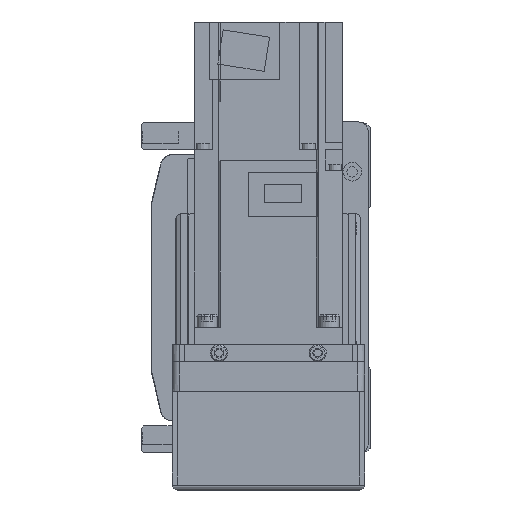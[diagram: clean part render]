
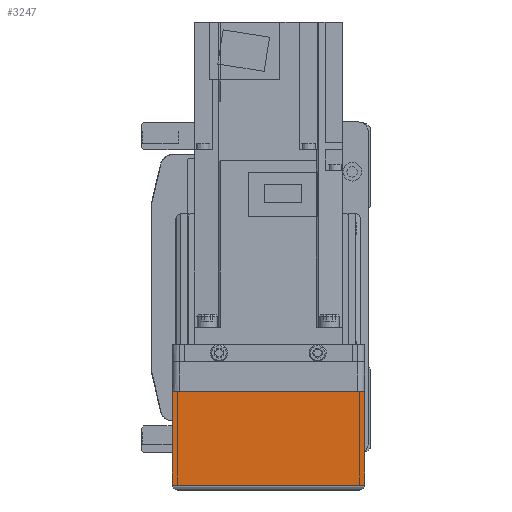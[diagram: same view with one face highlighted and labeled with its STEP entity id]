
A CAD part, left-side view. The second image highlights one B-rep face of the part: STEP entity #3247.
In plain terms, the highlighted planar face has unit normal (-1, 0, 0).
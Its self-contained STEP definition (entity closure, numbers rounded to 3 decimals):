
#3247 = ADVANCED_FACE( '', ( #6898 ), #6899, .F. );
#6898 = FACE_OUTER_BOUND( '', #10774, .T. );
#6899 = PLANE( '', #10775 );
#10774 = EDGE_LOOP( '', ( #20000, #20001, #20002, #20003 ) );
#10775 = AXIS2_PLACEMENT_3D( '', #20004, #20005, #20006 );
#20000 = ORIENTED_EDGE( '', *, *, #24372, .F. );
#20001 = ORIENTED_EDGE( '', *, *, #25149, .F. );
#20002 = ORIENTED_EDGE( '', *, *, #23011, .T. );
#20003 = ORIENTED_EDGE( '', *, *, #24266, .F. );
#20004 = CARTESIAN_POINT( '', ( -158., 36., 7. ) );
#20005 = DIRECTION( '', ( 1., 0., 0. ) );
#20006 = DIRECTION( '', ( 0., 0., -1. ) );
#23011 = EDGE_CURVE( '', #27996, #27594, #27998, .T. );
#24266 = EDGE_CURVE( '', #29854, #27594, #29856, .T. );
#24372 = EDGE_CURVE( '', #29989, #29854, #29991, .T. );
#25149 = EDGE_CURVE( '', #27996, #29989, #30940, .T. );
#27594 = VERTEX_POINT( '', #34873 );
#27996 = VERTEX_POINT( '', #35452 );
#27998 = LINE( '', #35454, #35455 );
#29854 = VERTEX_POINT( '', #38254 );
#29856 = LINE( '', #38257, #38258 );
#29989 = VERTEX_POINT( '', #38485 );
#29991 = LINE( '', #38488, #38489 );
#30940 = LINE( '', #40150, #40151 );
#34873 = CARTESIAN_POINT( '', ( -158., -39., -50. ) );
#35452 = CARTESIAN_POINT( '', ( -158., 39., -50. ) );
#35454 = CARTESIAN_POINT( '', ( -158., 40., -50. ) );
#35455 = VECTOR( '', #42516, 1000. );
#38254 = CARTESIAN_POINT( '', ( -158., -39., -12.1 ) );
#38257 = CARTESIAN_POINT( '', ( -158., -39., -12.1 ) );
#38258 = VECTOR( '', #43998, 1000. );
#38485 = CARTESIAN_POINT( '', ( -158., 39., -12.1 ) );
#38488 = CARTESIAN_POINT( '', ( -158., 50., -12.1 ) );
#38489 = VECTOR( '', #44098, 1000. );
#40150 = CARTESIAN_POINT( '', ( -158., 39., -50. ) );
#40151 = VECTOR( '', #44807, 1000. );
#42516 = DIRECTION( '', ( 0., -1., 0. ) );
#43998 = DIRECTION( '', ( 0., 0., -1. ) );
#44098 = DIRECTION( '', ( 0., -1., 0. ) );
#44807 = DIRECTION( '', ( 0., 0., 1. ) );
